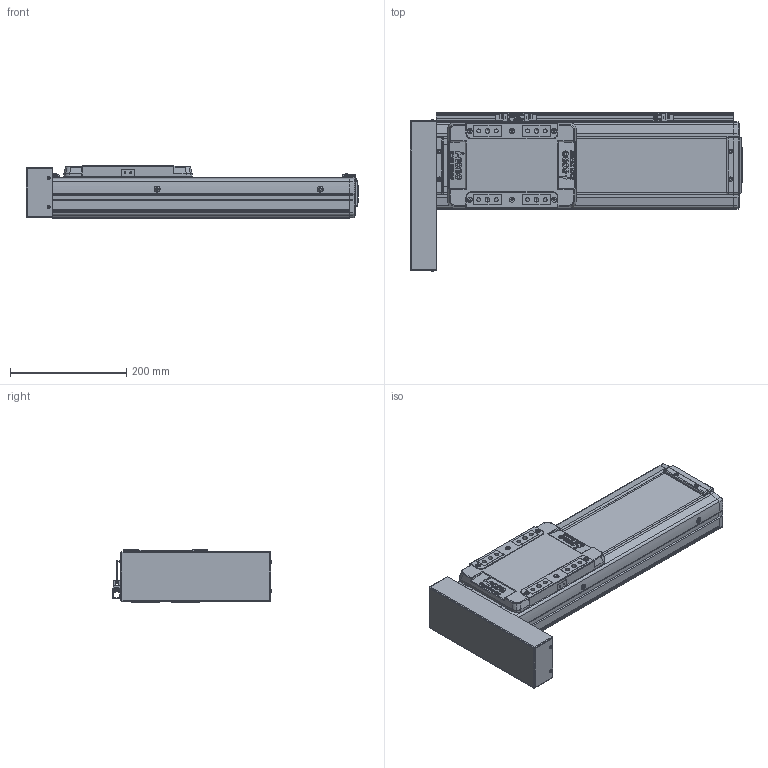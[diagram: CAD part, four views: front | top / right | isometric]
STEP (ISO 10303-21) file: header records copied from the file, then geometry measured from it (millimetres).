
FILE_DESCRIPTION(('STEP AP214'),'1');
FILE_NAME('Z:/Web/3D/SAN150/2013.04 (STP.)/SAN150ㅁㅁ-250PR+3SL.stp','2013-05-08T02:31:16',(' '),(' '),'Spatial InterOp 3D',' ',' ');
FILE_SCHEMA(('automotive_design'));
Length unit declared in the file: millimetre
Products named in the file (58): SLBL-SAN150; SLCV-SAN150; FHCS M4.0 x 8.0; BHCS M4.0 x 10.0; SFX-SAN150; RRCV-SAN150; FRBL-SAN150; Spacer; RN15; FRCV-SAN150; Screw 20; BASE-SAN150-000L ; SUS COVER; 스크루 : Round - M5.0 x 6.0; BHCS M3.0 x 6.0; P; M3.0 x 6.0; SRL-16x17-360L; SGD-SAN150; EE-SX674; SBK-SX674-352; 스크루 : Round - M3.0 x 6.0
Bounding box: 570 x 273.36 x 90 mm (x, y, z)
Volume: 4443843.5 mm3; surface area: 795662 mm2
Topology: 58 solids, 58 shells, 2554 faces, 6557 edges, 4218 vertices
Faces by surface type: plane 1382, cylinder 809, cone 250, sphere 80, bspline 21, torus 12
Entity records: 100670 total; most frequent: CARTESIAN_POINT 15657, DIRECTION 13864, ORIENTED_EDGE 12906, EDGE_CURVE 6453, AXIS2_PLACEMENT_3D 4896, VERTEX_POINT 4218, LINE 4072, VECTOR 4072
